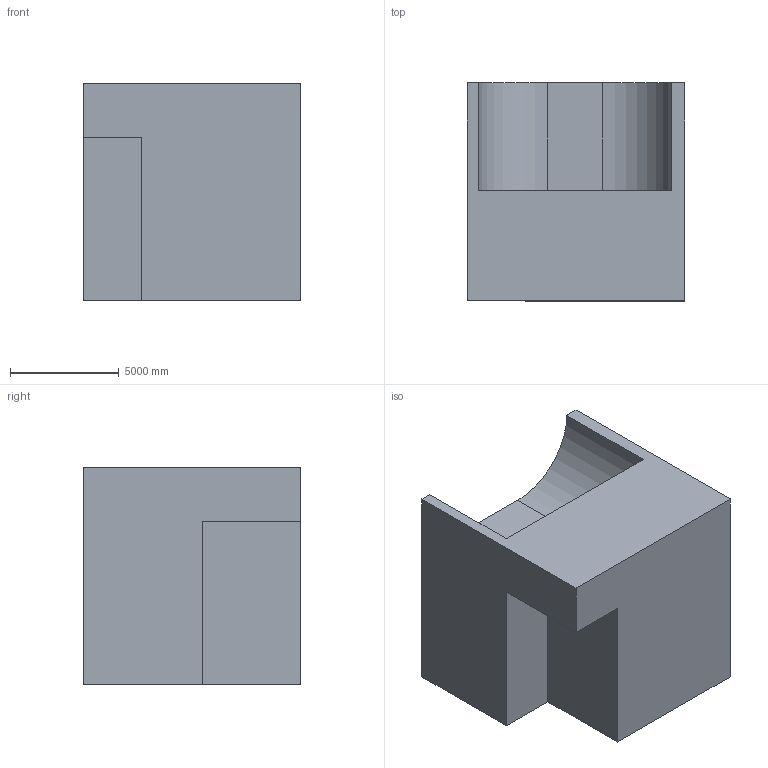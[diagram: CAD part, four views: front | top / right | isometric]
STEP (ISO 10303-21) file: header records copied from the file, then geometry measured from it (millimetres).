
FILE_DESCRIPTION (( 'STEP AP203' ), '1' );
FILE_NAME ('107.STEP', '2022-09-06T15:06:01', ( 'user' ), ( '' ), 'SwSTEP 2.0', 'SolidWorks 2021', '' );
FILE_SCHEMA (( 'CONFIG_CONTROL_DESIGN' ));
Length unit declared in the file: centimetre
Products named in the file (1): 107
Bounding box: 10000 x 10000 x 10000 mm (x, y, z)
Volume: 790320437920.5 mm3; surface area: 618001391.1 mm2
Topology: 1 solids, 1 shells, 13 faces, 33 edges, 22 vertices
Faces by surface type: plane 11, cylinder 2
Entity records: 468 total; most frequent: CARTESIAN_POINT 69, ORIENTED_EDGE 66, DIRECTION 65, EDGE_CURVE 33, VECTOR 29, LINE 29, VERTEX_POINT 22, AXIS2_PLACEMENT_3D 18
